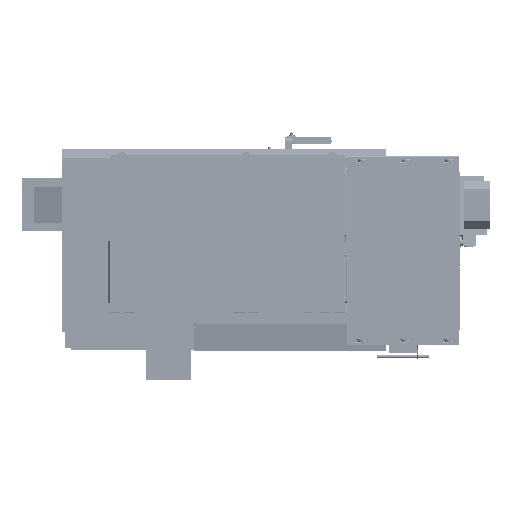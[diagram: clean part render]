
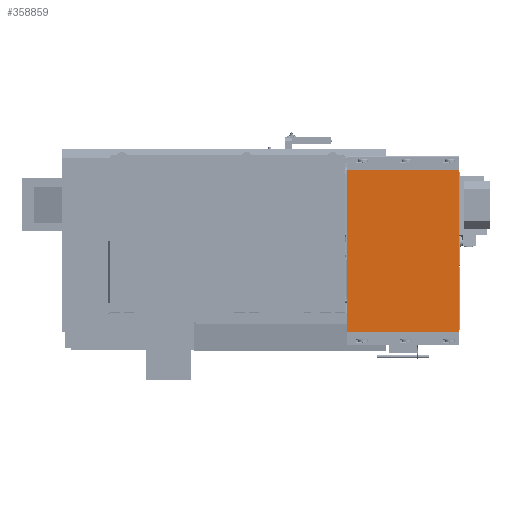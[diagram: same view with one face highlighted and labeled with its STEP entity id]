
A CAD part, front view. The second image highlights one B-rep face of the part: STEP entity #358859.
In plain terms, the highlighted planar face has unit normal (0, -1, 0) as drawn and (0.035, -0.999, 0) by its records, which use the part's own axes.
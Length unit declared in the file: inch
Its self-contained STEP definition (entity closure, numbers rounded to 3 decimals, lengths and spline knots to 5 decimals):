
#6830 = DIRECTION ( 'NONE',  ( 0.999, 0.035, 0. ) ) ;
#12046 = CARTESIAN_POINT ( 'NONE',  ( 72.14108, -42.79118, -54.03171 ) ) ;
#19908 = PLANE ( 'NONE',  #229538 ) ;
#26516 = VERTEX_POINT ( 'NONE', #325785 ) ;
#27004 = LINE ( 'NONE', #141101, #459431 ) ;
#29817 = EDGE_CURVE ( 'NONE', #240087, #446909, #411840, .T. ) ;
#32311 = EDGE_CURVE ( 'NONE', #240653, #83941, #27004, .T. ) ;
#51773 = CARTESIAN_POINT ( 'NONE',  ( -6.27156, -45.52941, 13.06829 ) ) ;
#59921 = VECTOR ( 'NONE', #147572, 39.37008 ) ;
#74000 = DIRECTION ( 'NONE',  ( 0.999, 0.035, 0. ) ) ;
#77034 = ORIENTED_EDGE ( 'NONE', *, *, #405121, .T. ) ;
#83941 = VERTEX_POINT ( 'NONE', #402751 ) ;
#94667 = EDGE_LOOP ( 'NONE', ( #120795, #77034, #406672, #241405, #188109, #153198, #227074, #313930 ) ) ;
#102130 = VECTOR ( 'NONE', #128381, 39.37008 ) ;
#120795 = ORIENTED_EDGE ( 'NONE', *, *, #189266, .F. ) ;
#128381 = DIRECTION ( 'NONE',  ( 0., 0., -1. ) ) ;
#129357 = DIRECTION ( 'NONE',  ( 0.999, 0.035, 0. ) ) ;
#131692 = EDGE_CURVE ( 'NONE', #26516, #240087, #436962, .T. ) ;
#141101 = CARTESIAN_POINT ( 'NONE',  ( -6.27156, -45.52941, 13.06829 ) ) ;
#142608 = VERTEX_POINT ( 'NONE', #447126 ) ;
#147572 = DIRECTION ( 'NONE',  ( 0.999, 0.035, 0. ) ) ;
#153198 = ORIENTED_EDGE ( 'NONE', *, *, #131692, .F. ) ;
#166563 = LINE ( 'NONE', #355462, #220309 ) ;
#188109 = ORIENTED_EDGE ( 'NONE', *, *, #29817, .F. ) ;
#189266 = EDGE_CURVE ( 'NONE', #252777, #240653, #298127, .T. ) ;
#194197 = VECTOR ( 'NONE', #6830, 39.37008 ) ;
#204024 = EDGE_CURVE ( 'NONE', #142608, #214324, #491211, .T. ) ;
#207923 = CARTESIAN_POINT ( 'NONE',  ( 118.82262, -41.16103, -54.03171 ) ) ;
#214324 = VERTEX_POINT ( 'NONE', #474922 ) ;
#220309 = VECTOR ( 'NONE', #129357, 39.37008 ) ;
#223708 = EDGE_CURVE ( 'NONE', #142608, #446909, #351512, .T. ) ;
#227074 = ORIENTED_EDGE ( 'NONE', *, *, #307479, .F. ) ;
#229538 = AXIS2_PLACEMENT_3D ( 'NONE', #419988, #377661, #382893 ) ;
#240087 = VERTEX_POINT ( 'NONE', #384674 ) ;
#240653 = VERTEX_POINT ( 'NONE', #410115 ) ;
#241405 = ORIENTED_EDGE ( 'NONE', *, *, #223708, .T. ) ;
#252777 = VERTEX_POINT ( 'NONE', #446014 ) ;
#258423 = FACE_OUTER_BOUND ( 'NONE', #94667, .T. ) ;
#298127 = LINE ( 'NONE', #12046, #382431 ) ;
#307479 = EDGE_CURVE ( 'NONE', #83941, #26516, #454443, .T. ) ;
#313930 = ORIENTED_EDGE ( 'NONE', *, *, #32311, .F. ) ;
#325785 = CARTESIAN_POINT ( 'NONE',  ( 118.72268, -41.16452, 13.06829 ) ) ;
#327129 = CARTESIAN_POINT ( 'NONE',  ( 118.72268, -41.16452, -54.03171 ) ) ;
#335310 = DIRECTION ( 'NONE',  ( 0., 0., 1. ) ) ;
#351512 = LINE ( 'NONE', #391254, #59921 ) ;
#355462 = CARTESIAN_POINT ( 'NONE',  ( -6.27156, -45.52941, -54.03171 ) ) ;
#358859 = ADVANCED_FACE ( 'NONE', ( #258423 ), #19908, .T. ) ;
#377661 = DIRECTION ( 'NONE',  ( 0.035, -0.999, 0. ) ) ;
#382431 = VECTOR ( 'NONE', #335310, 39.37008 ) ;
#382893 = DIRECTION ( 'NONE',  ( 0., 0., -1. ) ) ;
#384674 = CARTESIAN_POINT ( 'NONE',  ( 118.82262, -41.16103, 13.06829 ) ) ;
#391254 = CARTESIAN_POINT ( 'NONE',  ( -6.27156, -45.52941, -54.03171 ) ) ;
#402751 = CARTESIAN_POINT ( 'NONE',  ( 72.24102, -42.78769, 13.06829 ) ) ;
#405121 = EDGE_CURVE ( 'NONE', #252777, #214324, #166563, .T. ) ;
#406561 = DIRECTION ( 'NONE',  ( -0.999, -0.035, 0. ) ) ;
#406672 = ORIENTED_EDGE ( 'NONE', *, *, #204024, .F. ) ;
#410115 = CARTESIAN_POINT ( 'NONE',  ( 72.14108, -42.79118, 13.06829 ) ) ;
#411533 = CARTESIAN_POINT ( 'NONE',  ( 118.82262, -41.16103, -54.03171 ) ) ;
#411840 = LINE ( 'NONE', #207923, #102130 ) ;
#414090 = VECTOR ( 'NONE', #74000, 39.37008 ) ;
#419988 = CARTESIAN_POINT ( 'NONE',  ( -6.27156, -45.52941, -54.03171 ) ) ;
#436962 = LINE ( 'NONE', #442202, #414090 ) ;
#442202 = CARTESIAN_POINT ( 'NONE',  ( -6.27156, -45.52941, 13.06829 ) ) ;
#446014 = CARTESIAN_POINT ( 'NONE',  ( 72.14108, -42.79118, -54.03171 ) ) ;
#446909 = VERTEX_POINT ( 'NONE', #411533 ) ;
#447126 = CARTESIAN_POINT ( 'NONE',  ( 118.72268, -41.16452, -54.03171 ) ) ;
#454443 = LINE ( 'NONE', #51773, #194197 ) ;
#459431 = VECTOR ( 'NONE', #464208, 39.37008 ) ;
#464208 = DIRECTION ( 'NONE',  ( 0.999, 0.035, 0. ) ) ;
#474922 = CARTESIAN_POINT ( 'NONE',  ( 72.24102, -42.78769, -54.03171 ) ) ;
#491211 = LINE ( 'NONE', #327129, #520108 ) ;
#520108 = VECTOR ( 'NONE', #406561, 39.37008 ) ;
